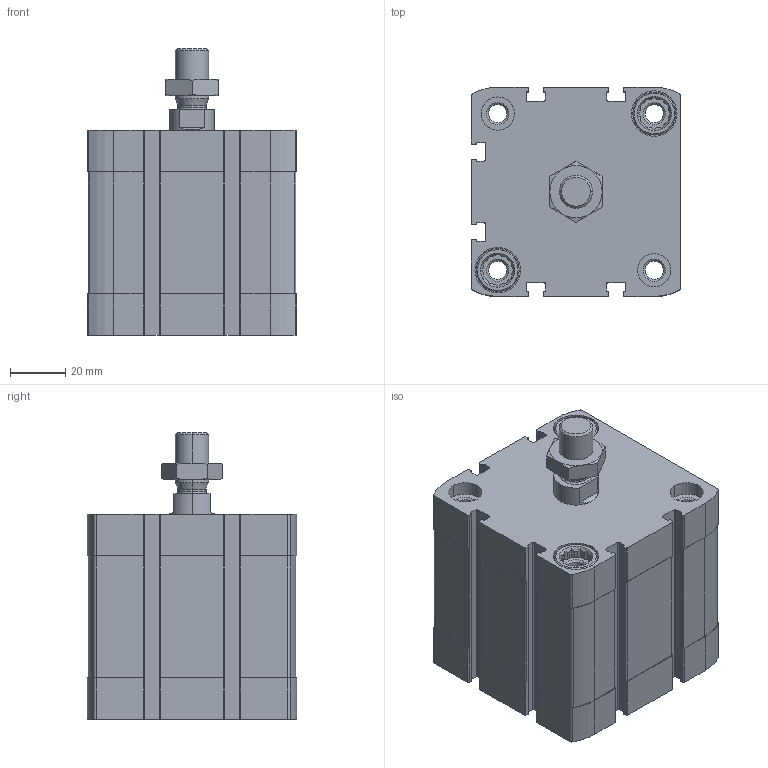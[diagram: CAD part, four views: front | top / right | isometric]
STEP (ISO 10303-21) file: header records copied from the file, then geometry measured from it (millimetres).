
FILE_DESCRIPTION (( 'STEP AP203' ), '1' );
FILE_NAME ('CCN63-25M.STEP', '2017-04-05T18:12:56', ( '' ), ( '' ), 'SwSTEP 2.0', 'SolidWorks 2016', '' );
FILE_SCHEMA (( 'CONFIG_CONTROL_DESIGN' ));
Length unit declared in the file: millimetre
Products named in the file (4): CCN---(Z); CCN_(KS); _DIN-439-B - M12x1.25(F)_1; CCN63-25M
Assembly tree (3 placements, depth 2):
  CCN63-25M
    CCN---(Z)
    CCN_(KS)
    _DIN-439-B - M12x1.25(F)_1
Bounding box: 75.5 x 75.5 x 103.5 mm (x, y, z)
Volume: 318163.1 mm3; surface area: 76893.1 mm2
Topology: 3 solids, 3 shells, 491 faces, 1318 edges, 864 vertices
Faces by surface type: plane 227, cylinder 212, cone 48, bspline 4
Entity records: 16092 total; most frequent: CARTESIAN_POINT 3139, DIRECTION 2676, ORIENTED_EDGE 2636, EDGE_CURVE 1318, AXIS2_PLACEMENT_3D 979, VERTEX_POINT 864, LINE 718, VECTOR 718
